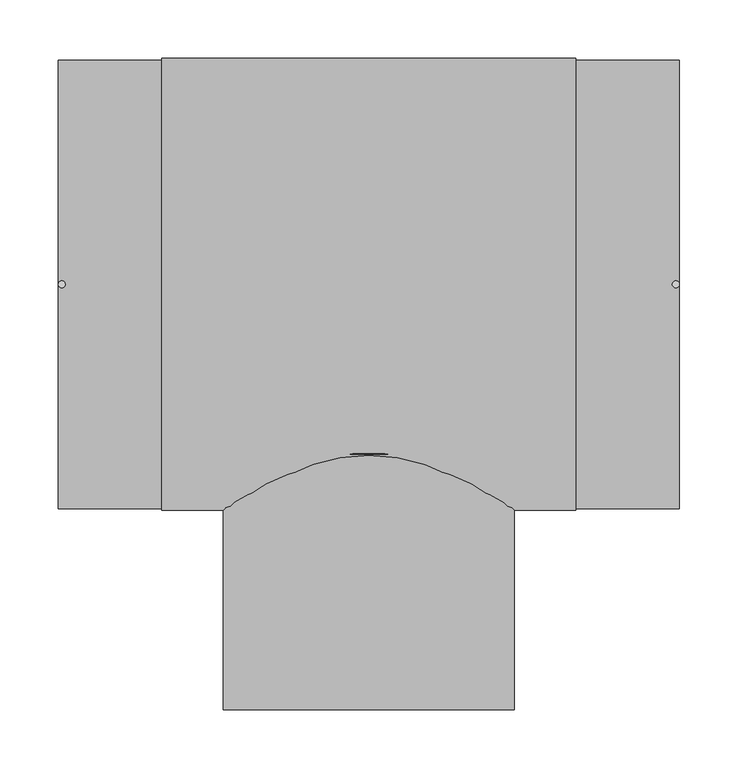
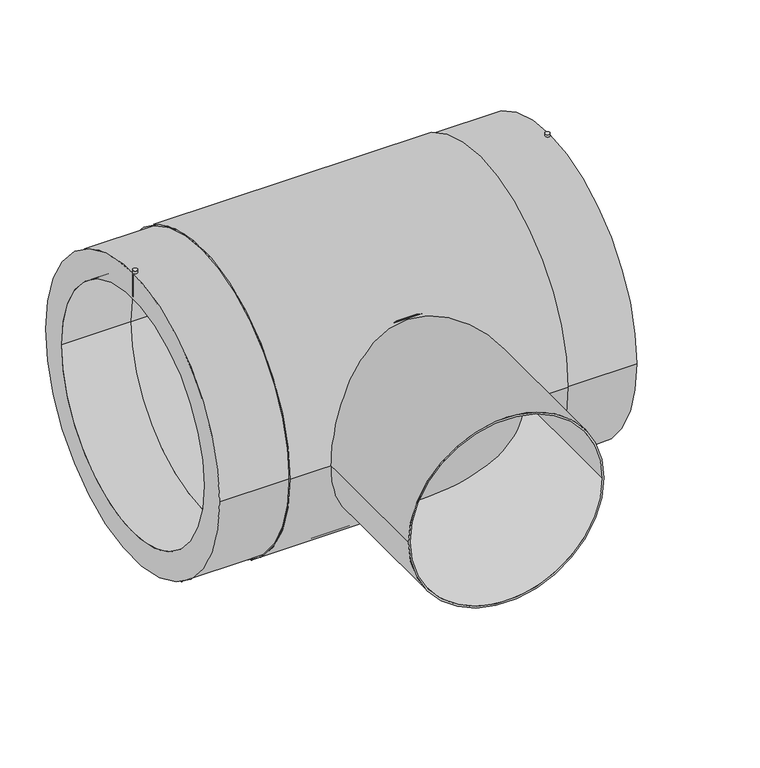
"""IFC4 building model written with IfcOpenShell, lengths in millimetres: pipe fitting geometry, EGB_VASEN_ PPR_Te electrosoldable WXRD300_Te reducida electrosoldable WXRD310 : Te electrosoldable."""

from ifc_helpers import new_model, si_unit, point, frame, frame_2d, origin, origin_2d, place, context, project, spatial, circle_curve, trimmed, segment, composite_curve, outline, extrude, source, transform, mapped, element, save


def pipe_fitting_9e0f9671(model_context):
    return source(origin(), model_context, "Body", "SweptSolid", [
        extrude(outline(composite_curve([segment(trimmed(circle_curve(frame_2d((-263.5, 0.0)), 3.0), [point((-266.5, 0.0))], [point((-260.5, 0.0))], False, "CARTESIAN"), True, "CONTINUOUS"), segment(trimmed(circle_curve(frame_2d((-263.5, 0.0)), 3.0), [point((-260.5, 0.0))], [point((-266.5, 0.0))], False, "CARTESIAN"), True, "CONTINUOUS")], self_intersect=False)), frame((0.0, 0.0, 160.5), z_axis=(0.0, 0.0, 1.0), x_axis=(1.0, 0.0, 0.0)), (0.0, 0.0, 1.0), 35.0),
        extrude(outline(composite_curve([segment(trimmed(circle_curve(frame_2d((263.5, 0.0)), 3.0), [point((260.5, 0.0))], [point((266.5, 0.0))], False, "CARTESIAN"), True, "CONTINUOUS"), segment(trimmed(circle_curve(frame_2d((263.5, 0.0)), 3.0), [point((266.5, 0.0))], [point((260.5, 0.0))], False, "CARTESIAN"), True, "CONTINUOUS")], self_intersect=False)), frame((0.0, 0.0, 160.5), z_axis=(0.0, 0.0, 1.0), x_axis=(1.0, 0.0, 0.0)), (0.0, 0.0, 1.0), 35.0),
        extrude(outline(composite_curve([segment(trimmed(circle_curve(origin_2d(), 127.5), [point((0.0, 127.5))], [point((0.0, -127.5))], False, "CARTESIAN"), True, "CONTINUOUS"), segment(trimmed(circle_curve(origin_2d(), 127.5), [point((0.0, -127.5))], [point((0.0, 127.5))], False, "CARTESIAN"), True, "CONTINUOUS")], self_intersect=False)), frame((0.0, -146.0, 0.0), z_axis=(0.0, 1.0, 0.0), x_axis=(0.0, 0.0, 1.0)), (0.0, 0.0, 1.0), 146.0),
        extrude(outline(composite_curve([segment(trimmed(circle_curve(origin_2d(), 125.0), [point((0.0, -125.0))], [point((0.0, 125.0))], False, "CARTESIAN"), True, "CONTINUOUS"), segment(trimmed(circle_curve(origin_2d(), 125.0), [point((0.0, 125.0))], [point((0.0, -125.0))], False, "CARTESIAN"), True, "CONTINUOUS")], self_intersect=False), holes=[composite_curve([segment(trimmed(circle_curve(origin_2d(), 122.5), [point((0.0, -122.5))], [point((0.0, 122.5))], True, "CARTESIAN"), True, "CONTINUOUS"), segment(trimmed(circle_curve(origin_2d(), 122.5), [point((0.0, 122.5))], [point((0.0, -122.5))], True, "CARTESIAN"), True, "CONTINUOUS")], self_intersect=False)]), frame((0.0, -365.0, 0.0), z_axis=(0.0, 1.0, 0.0), x_axis=(0.0, 0.0, 1.0)), (0.0, 0.0, 1.0), 219.0),
        extrude(outline(composite_curve([segment(trimmed(circle_curve(origin_2d(), 194.0), [point((-194.0, 0.0))], [point((194.0, 0.0))], False, "CARTESIAN"), True, "CONTINUOUS"), segment(trimmed(circle_curve(origin_2d(), 194.0), [point((194.0, 0.0))], [point((-194.0, 0.0))], False, "CARTESIAN"), True, "CONTINUOUS")], self_intersect=False), holes=[composite_curve([segment(trimmed(circle_curve(origin_2d(), 157.5), [point((-157.5, 0.0))], [point((157.5, 0.0))], True, "CARTESIAN"), True, "CONTINUOUS"), segment(trimmed(circle_curve(origin_2d(), 157.5), [point((157.5, 0.0))], [point((-157.5, 0.0))], True, "CARTESIAN"), True, "CONTINUOUS")], self_intersect=False)]), frame((-177.6666667, 0.0, 0.0), z_axis=(1.0, 0.0, 0.0), x_axis=(0.0, 1.0, 0.0)), (0.0, 0.0, 1.0), 355.3333333),
        extrude(outline(composite_curve([segment(trimmed(circle_curve(origin_2d(), 192.5), [point((-192.5, 0.0))], [point((192.5, 0.0))], False, "CARTESIAN"), True, "CONTINUOUS"), segment(trimmed(circle_curve(origin_2d(), 192.5), [point((192.5, 0.0))], [point((-192.5, 0.0))], False, "CARTESIAN"), True, "CONTINUOUS")], self_intersect=False), holes=[composite_curve([segment(trimmed(circle_curve(origin_2d(), 157.5), [point((-157.5, 0.0))], [point((157.5, 0.0))], True, "CARTESIAN"), True, "CONTINUOUS"), segment(trimmed(circle_curve(origin_2d(), 157.5), [point((157.5, 0.0))], [point((-157.5, 0.0))], True, "CARTESIAN"), True, "CONTINUOUS")], self_intersect=False)]), frame((-266.5, 0.0, 0.0), z_axis=(1.0, 0.0, 0.0), x_axis=(0.0, 1.0, 0.0)), (0.0, 0.0, 1.0), 533.0),
    ])


if __name__ == "__main__":
    model = new_model("IFC4")
    model_context = context("Model", 3, world=origin())
    ifc_project = project(units=[si_unit("LENGTHUNIT", "METRE", prefix="MILLI")], contexts=[model_context])
    site = spatial("IfcSite", under=ifc_project)
    building = spatial("IfcBuilding", under=site)
    placement = place(None, origin())
    pipe_fitting_shape = pipe_fitting_9e0f9671(model_context)
    element("IfcPipeFitting", 1, ObjectType="EGB_VASEN_ PPR_Te electrosoldable WXRD300_Te reducida electrosoldable WXRD310 : Te electrosoldable", at=placement, inside=building, context=model_context, shape_type="MappedRepresentation", body=[
        mapped(pipe_fitting_shape, transform((0.0, 0.0, 0.0), x_axis=(1.0, 0.0, 0.0), y_axis=(0.0, 1.0, 0.0), z_axis=(0.0, 0.0, 1.0))),
    ])
    save(model, "model.ifc")
